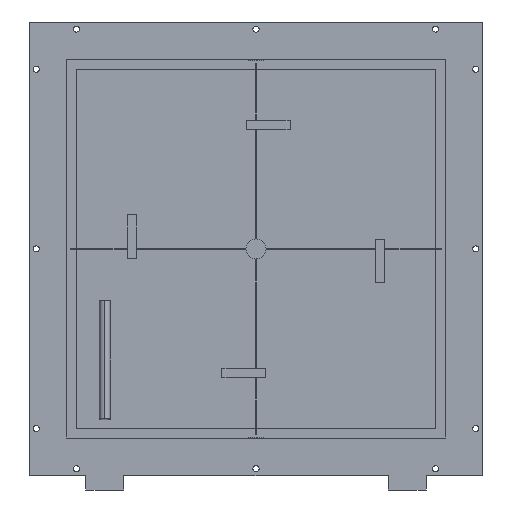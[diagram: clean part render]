
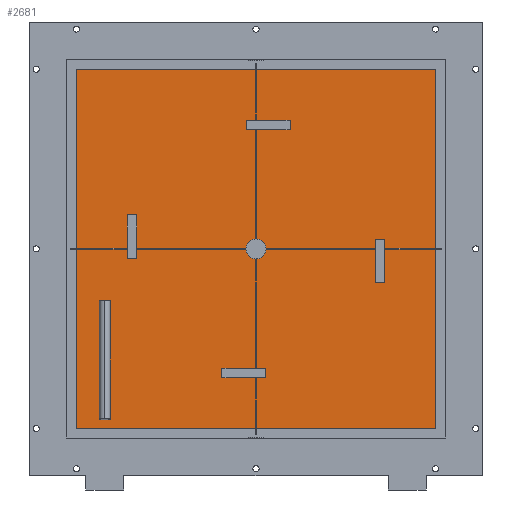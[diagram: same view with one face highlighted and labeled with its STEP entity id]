
A CAD part, front view. The second image highlights one B-rep face of the part: STEP entity #2681.
In plain terms, the highlighted planar face has unit normal (0, -1, 0).
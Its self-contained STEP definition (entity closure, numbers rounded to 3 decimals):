
#204=DIRECTION('',(0.,0.,-1.));
#205=VECTOR('',#204,841.);
#206=CARTESIAN_POINT('',(420.5,77.,420.5));
#207=LINE('',#206,#205);
#212=CARTESIAN_POINT('',(0.,77.,0.));
#213=DIRECTION('',(0.,1.,0.));
#214=DIRECTION('',(0.,0.,1.));
#215=AXIS2_PLACEMENT_3D('',#212,#213,#214);
#217=CARTESIAN_POINT('',(0.,77.,0.));
#218=DIRECTION('',(0.,1.,0.));
#219=DIRECTION('',(0.,0.,-1.));
#220=AXIS2_PLACEMENT_3D('',#217,#218,#219);
#222=DIRECTION('',(0.,0.,-1.));
#223=VECTOR('',#222,92.);
#224=CARTESIAN_POINT('',(-272.5,77.,72.));
#225=LINE('',#224,#223);
#226=DIRECTION('',(1.,0.,0.));
#227=VECTOR('',#226,20.);
#228=CARTESIAN_POINT('',(-272.5,77.,-20.));
#229=LINE('',#228,#227);
#230=DIRECTION('',(0.,0.,1.));
#231=VECTOR('',#230,92.);
#232=CARTESIAN_POINT('',(-252.5,77.,-20.));
#233=LINE('',#232,#231);
#234=DIRECTION('',(-1.,0.,0.));
#235=VECTOR('',#234,20.);
#236=CARTESIAN_POINT('',(-252.5,77.,72.));
#237=LINE('',#236,#235);
#238=DIRECTION('',(0.,0.,-1.));
#239=VECTOR('',#238,20.);
#240=CARTESIAN_POINT('',(-20.,77.,272.5));
#241=LINE('',#240,#239);
#242=DIRECTION('',(1.,0.,0.));
#243=VECTOR('',#242,92.);
#244=CARTESIAN_POINT('',(-20.,77.,252.5));
#245=LINE('',#244,#243);
#246=DIRECTION('',(0.,0.,1.));
#247=VECTOR('',#246,20.);
#248=CARTESIAN_POINT('',(72.,77.,252.5));
#249=LINE('',#248,#247);
#250=DIRECTION('',(-1.,0.,0.));
#251=VECTOR('',#250,92.);
#252=CARTESIAN_POINT('',(72.,77.,272.5));
#253=LINE('',#252,#251);
#254=DIRECTION('',(0.,0.,-1.));
#255=VECTOR('',#254,92.);
#256=CARTESIAN_POINT('',(252.5,77.,20.));
#257=LINE('',#256,#255);
#258=DIRECTION('',(1.,0.,0.));
#259=VECTOR('',#258,20.);
#260=CARTESIAN_POINT('',(252.5,77.,-72.));
#261=LINE('',#260,#259);
#262=DIRECTION('',(0.,0.,1.));
#263=VECTOR('',#262,92.);
#264=CARTESIAN_POINT('',(272.5,77.,-72.));
#265=LINE('',#264,#263);
#266=DIRECTION('',(-1.,0.,0.));
#267=VECTOR('',#266,20.);
#268=CARTESIAN_POINT('',(272.5,77.,20.));
#269=LINE('',#268,#267);
#270=DIRECTION('',(-1.,0.,0.));
#271=VECTOR('',#270,92.);
#272=CARTESIAN_POINT('',(20.,77.,-252.5));
#273=LINE('',#272,#271);
#274=DIRECTION('',(0.,0.,-1.));
#275=VECTOR('',#274,20.);
#276=CARTESIAN_POINT('',(-72.,77.,-252.5));
#277=LINE('',#276,#275);
#278=DIRECTION('',(1.,0.,0.));
#279=VECTOR('',#278,92.);
#280=CARTESIAN_POINT('',(-72.,77.,-272.5));
#281=LINE('',#280,#279);
#282=DIRECTION('',(0.,0.,1.));
#283=VECTOR('',#282,20.);
#284=CARTESIAN_POINT('',(20.,77.,-272.5));
#285=LINE('',#284,#283);
#286=DIRECTION('',(-1.,0.,0.));
#287=VECTOR('',#286,841.);
#288=CARTESIAN_POINT('',(420.5,77.,-420.5));
#289=LINE('',#288,#287);
#294=DIRECTION('',(0.,0.,1.));
#295=VECTOR('',#294,841.);
#296=CARTESIAN_POINT('',(-420.5,77.,-420.5));
#297=LINE('',#296,#295);
#302=DIRECTION('',(1.,0.,0.));
#303=VECTOR('',#302,841.);
#304=CARTESIAN_POINT('',(-420.5,77.,420.5));
#305=LINE('',#304,#303);
#2007=CARTESIAN_POINT('',(420.5,77.,420.5));
#2008=CARTESIAN_POINT('',(420.5,77.,-420.5));
#2009=VERTEX_POINT('',#2007);
#2010=VERTEX_POINT('',#2008);
#2011=CARTESIAN_POINT('',(-420.5,77.,-420.5));
#2012=VERTEX_POINT('',#2011);
#2013=CARTESIAN_POINT('',(-420.5,77.,420.5));
#2014=VERTEX_POINT('',#2013);
#2323=CARTESIAN_POINT('',(0.,77.,21.2));
#2324=CARTESIAN_POINT('',(0.,77.,-21.2));
#2325=VERTEX_POINT('',#2323);
#2326=VERTEX_POINT('',#2324);
#2361=CARTESIAN_POINT('',(-272.5,77.,72.));
#2362=CARTESIAN_POINT('',(-272.5,77.,-20.));
#2363=VERTEX_POINT('',#2361);
#2364=VERTEX_POINT('',#2362);
#2365=CARTESIAN_POINT('',(-252.5,77.,-20.));
#2366=VERTEX_POINT('',#2365);
#2367=CARTESIAN_POINT('',(-252.5,77.,72.));
#2368=VERTEX_POINT('',#2367);
#2369=CARTESIAN_POINT('',(-20.,77.,272.5));
#2370=CARTESIAN_POINT('',(-20.,77.,252.5));
#2371=VERTEX_POINT('',#2369);
#2372=VERTEX_POINT('',#2370);
#2373=CARTESIAN_POINT('',(72.,77.,252.5));
#2374=VERTEX_POINT('',#2373);
#2375=CARTESIAN_POINT('',(72.,77.,272.5));
#2376=VERTEX_POINT('',#2375);
#2377=CARTESIAN_POINT('',(252.5,77.,20.));
#2378=CARTESIAN_POINT('',(252.5,77.,-72.));
#2379=VERTEX_POINT('',#2377);
#2380=VERTEX_POINT('',#2378);
#2381=CARTESIAN_POINT('',(272.5,77.,-72.));
#2382=VERTEX_POINT('',#2381);
#2383=CARTESIAN_POINT('',(272.5,77.,20.));
#2384=VERTEX_POINT('',#2383);
#2385=CARTESIAN_POINT('',(20.,77.,-252.5));
#2386=CARTESIAN_POINT('',(-72.,77.,-252.5));
#2387=VERTEX_POINT('',#2385);
#2388=VERTEX_POINT('',#2386);
#2389=CARTESIAN_POINT('',(-72.,77.,-272.5));
#2390=VERTEX_POINT('',#2389);
#2391=CARTESIAN_POINT('',(20.,77.,-272.5));
#2392=VERTEX_POINT('',#2391);
#2621=CARTESIAN_POINT('',(0.,77.,0.));
#2622=DIRECTION('',(0.,1.,0.));
#2623=DIRECTION('',(0.,0.,-1.));
#2624=AXIS2_PLACEMENT_3D('',#2621,#2622,#2623);
#2625=PLANE('',#2624);
#2626=ORIENTED_EDGE('',*,*,#2611,.T.);
#2628=ORIENTED_EDGE('',*,*,#2627,.T.);
#2630=ORIENTED_EDGE('',*,*,#2629,.T.);
#2632=ORIENTED_EDGE('',*,*,#2631,.T.);
#2633=EDGE_LOOP('',(#2626,#2628,#2630,#2632));
#2634=FACE_OUTER_BOUND('',#2633,.F.);
#2636=ORIENTED_EDGE('',*,*,#2635,.F.);
#2638=ORIENTED_EDGE('',*,*,#2637,.F.);
#2639=EDGE_LOOP('',(#2636,#2638));
#2640=FACE_BOUND('',#2639,.F.);
#2642=ORIENTED_EDGE('',*,*,#2641,.T.);
#2644=ORIENTED_EDGE('',*,*,#2643,.T.);
#2646=ORIENTED_EDGE('',*,*,#2645,.T.);
#2648=ORIENTED_EDGE('',*,*,#2647,.T.);
#2649=EDGE_LOOP('',(#2642,#2644,#2646,#2648));
#2650=FACE_BOUND('',#2649,.F.);
#2652=ORIENTED_EDGE('',*,*,#2651,.T.);
#2654=ORIENTED_EDGE('',*,*,#2653,.T.);
#2656=ORIENTED_EDGE('',*,*,#2655,.T.);
#2658=ORIENTED_EDGE('',*,*,#2657,.T.);
#2659=EDGE_LOOP('',(#2652,#2654,#2656,#2658));
#2660=FACE_BOUND('',#2659,.F.);
#2662=ORIENTED_EDGE('',*,*,#2661,.T.);
#2664=ORIENTED_EDGE('',*,*,#2663,.T.);
#2666=ORIENTED_EDGE('',*,*,#2665,.T.);
#2668=ORIENTED_EDGE('',*,*,#2667,.T.);
#2669=EDGE_LOOP('',(#2662,#2664,#2666,#2668));
#2670=FACE_BOUND('',#2669,.F.);
#2672=ORIENTED_EDGE('',*,*,#2671,.T.);
#2674=ORIENTED_EDGE('',*,*,#2673,.T.);
#2676=ORIENTED_EDGE('',*,*,#2675,.T.);
#2678=ORIENTED_EDGE('',*,*,#2677,.T.);
#2679=EDGE_LOOP('',(#2672,#2674,#2676,#2678));
#2680=FACE_BOUND('',#2679,.F.);
#216=CIRCLE('',#215,21.2);
#221=CIRCLE('',#220,21.2);
#2611=EDGE_CURVE('',#2009,#2010,#207,.T.);
#2627=EDGE_CURVE('',#2010,#2012,#289,.T.);
#2629=EDGE_CURVE('',#2012,#2014,#297,.T.);
#2631=EDGE_CURVE('',#2014,#2009,#305,.T.);
#2635=EDGE_CURVE('',#2325,#2326,#216,.T.);
#2637=EDGE_CURVE('',#2326,#2325,#221,.T.);
#2641=EDGE_CURVE('',#2363,#2364,#225,.T.);
#2643=EDGE_CURVE('',#2364,#2366,#229,.T.);
#2645=EDGE_CURVE('',#2366,#2368,#233,.T.);
#2647=EDGE_CURVE('',#2368,#2363,#237,.T.);
#2651=EDGE_CURVE('',#2371,#2372,#241,.T.);
#2653=EDGE_CURVE('',#2372,#2374,#245,.T.);
#2655=EDGE_CURVE('',#2374,#2376,#249,.T.);
#2657=EDGE_CURVE('',#2376,#2371,#253,.T.);
#2661=EDGE_CURVE('',#2379,#2380,#257,.T.);
#2663=EDGE_CURVE('',#2380,#2382,#261,.T.);
#2665=EDGE_CURVE('',#2382,#2384,#265,.T.);
#2667=EDGE_CURVE('',#2384,#2379,#269,.T.);
#2671=EDGE_CURVE('',#2387,#2388,#273,.T.);
#2673=EDGE_CURVE('',#2388,#2390,#277,.T.);
#2675=EDGE_CURVE('',#2390,#2392,#281,.T.);
#2677=EDGE_CURVE('',#2392,#2387,#285,.T.);
#2681=ADVANCED_FACE('',(#2634,#2640,#2650,#2660,#2670,#2680),#2625,.F.);
